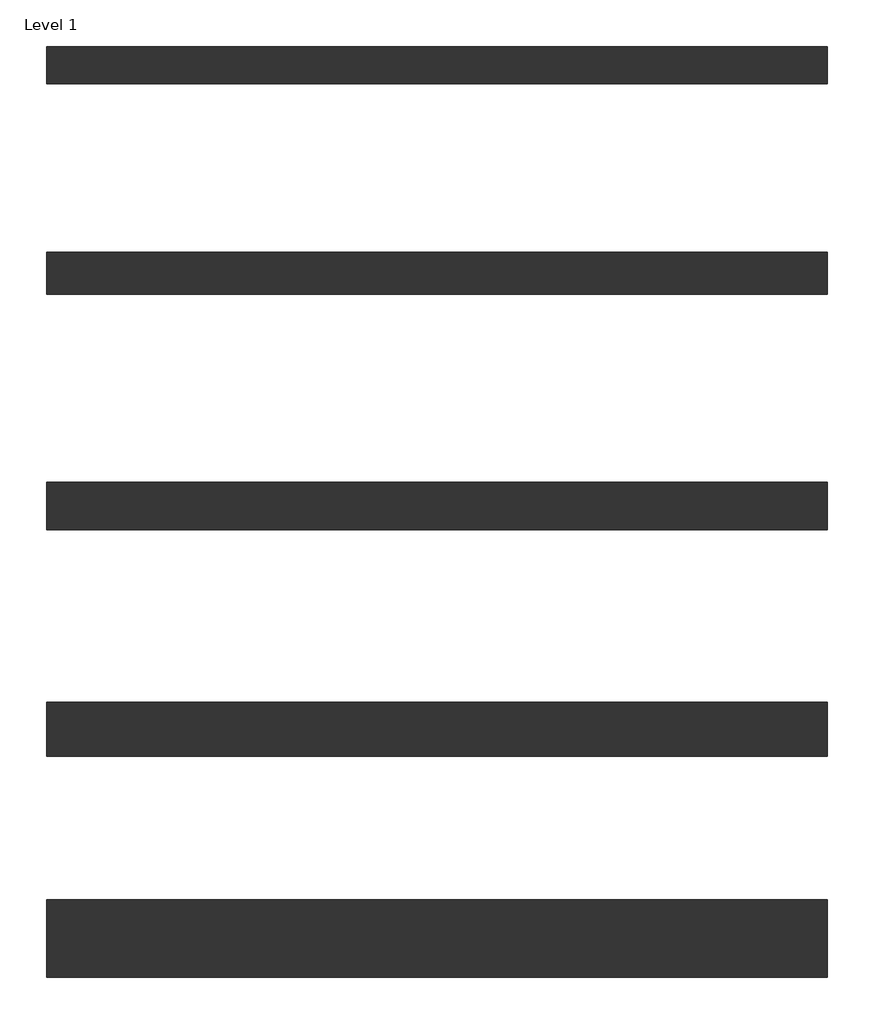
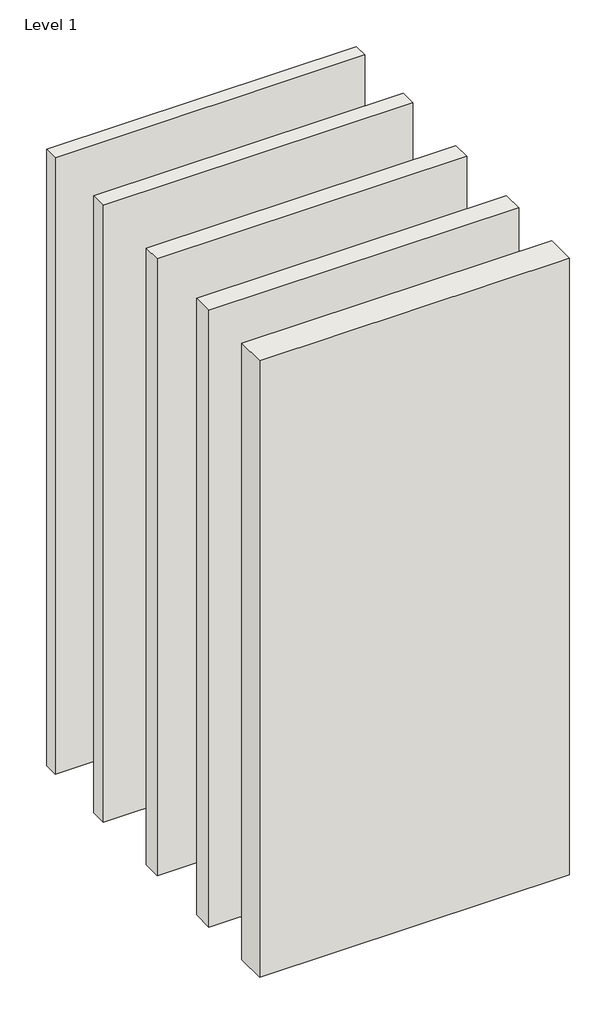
# One storey: 5 walls.
"""IFC4 building model written with IfcOpenShell, lengths in millimetres."""

from ifc_helpers import new_model, si_unit, origin, origin_with_axes, place, context, project, spatial, polyline, outline, extrude, element, save

model = new_model("IFC4")

# Units and contexts
model_context = context("Model", 3, world=origin())
ifc_project = project(units=[si_unit("LENGTHUNIT", "METRE", prefix="MILLI")], contexts=[model_context])

# Site, building, storey
site = spatial("IfcSite", under=ifc_project)
building = spatial("IfcBuilding", under=site)
storey = spatial("IfcBuildingStorey", under=building, Name="Level 1", Elevation=0.0)

# Walls
placement = place(None, origin())
element("IfcWall", 1, ObjectType="Interior-Steel Frame-Sigle Stud- CSR1045-90mm", at=placement, inside=storey, context=model_context, shape_type="SweptSolid", body=[
    extrude(outline(polyline([(-1043.2015964, 194.6434198), (856.7984036, 194.6434198), (856.7984036, 104.6434198), (-1043.2015964, 104.6434198), (-1043.2015964, 194.6434198)])), origin_with_axes(), (0.0, 0.0, 1.0), 4000.0),
])
element("IfcWall", 2, ObjectType="Interior-Steel Frame-Sigle Stud- CSR1045-103mm", at=placement, inside=storey, context=model_context, shape_type="SweptSolid", body=[
    extrude(outline(polyline([(-1043.2015964, -305.3565802), (856.7984036, -305.3565802), (856.7984036, -408.3565802), (-1043.2015964, -408.3565802), (-1043.2015964, -305.3565802)])), origin_with_axes(), (0.0, 0.0, 1.0), 4000.0),
])
element("IfcWall", 3, ObjectType="Interior-Steel Frame-Sigle Stud- CSR1045-115mm", at=placement, inside=storey, context=model_context, shape_type="SweptSolid", body=[
    extrude(outline(polyline([(-1043.2015964, -865.3565802), (856.7984036, -865.3565802), (856.7984036, -980.3565802), (-1043.2015964, -980.3565802), (-1043.2015964, -865.3565802)])), origin_with_axes(), (0.0, 0.0, 1.0), 4000.0),
])
element("IfcWall", 4, ObjectType="Interior-Steel Frame-Sigle Stud- CSR1045-131mm", at=placement, inside=storey, context=model_context, shape_type="SweptSolid", body=[
    extrude(outline(polyline([(-1043.2015964, -1400.3565802), (856.7984036, -1400.3565802), (856.7984036, -1531.3565802), (-1043.2015964, -1531.3565802), (-1043.2015964, -1400.3565802)])), origin_with_axes(), (0.0, 0.0, 1.0), 4000.0),
])
element("IfcWall", 5, ObjectType="Interior-Steel Frame-Sigle Stud- CSR1045-189mm", at=placement, inside=storey, context=model_context, shape_type="SweptSolid", body=[
    extrude(outline(polyline([(-1043.2015964, -1880.3565802), (856.7984036, -1880.3565802), (856.7984036, -2069.3565802), (-1043.2015964, -2069.3565802), (-1043.2015964, -1880.3565802)])), origin_with_axes(), (0.0, 0.0, 1.0), 4000.0),
])

save(model, "model.ifc")
